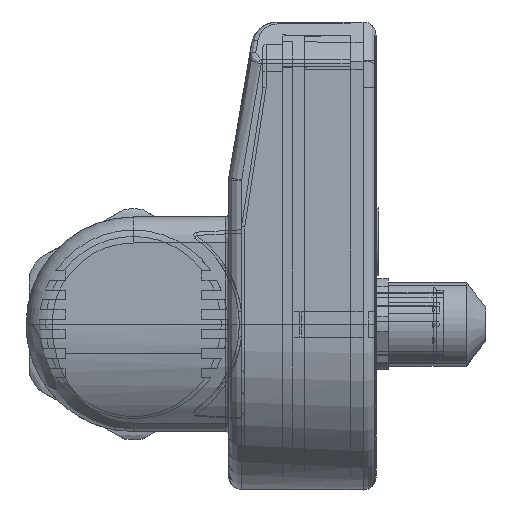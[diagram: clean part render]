
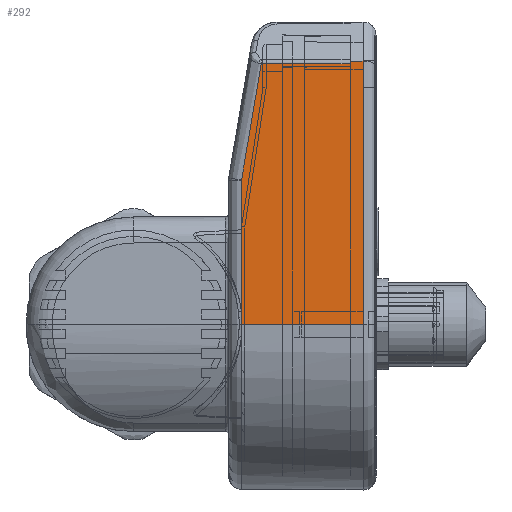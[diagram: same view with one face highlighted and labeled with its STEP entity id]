
A CAD part, front view. The second image highlights one B-rep face of the part: STEP entity #292.
In plain terms, the highlighted planar face has unit normal (0, -1, 0).
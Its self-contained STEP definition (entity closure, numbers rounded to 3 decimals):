
#73=CARTESIAN_POINT('',(35.347,-108.519,0.));
#74=VERTEX_POINT('',#73);
#84=CARTESIAN_POINT('',(33.347,-108.519,0.));
#85=VERTEX_POINT('',#84);
#86=CARTESIAN_POINT('',(35.347,-108.519,0.));
#87=DIRECTION('',(-1.0,0.0,0.0));
#88=VECTOR('',#87,2.0);
#89=LINE('',#86,#88);
#90=EDGE_CURVE('',#74,#85,#89,.T.);
#92=CARTESIAN_POINT('',(16.647,-108.519,0.));
#93=VERTEX_POINT('',#92);
#94=CARTESIAN_POINT('',(16.647,-108.519,0.));
#95=DIRECTION('',(1.0,0.0,0.0));
#96=VECTOR('',#95,16.7);
#97=LINE('',#94,#96);
#98=EDGE_CURVE('',#93,#85,#97,.T.);
#237=CARTESIAN_POINT('',(37.347,-108.519,46.5));
#238=DIRECTION('',(0.0,-1.0,0.0));
#239=DIRECTION('',(-1.0,0.0,0.0));
#240=AXIS2_PLACEMENT_3D('',#237,#238,#239);
#241=PLANE('',#240);
#242=CARTESIAN_POINT('',(35.347,-108.519,40.5));
#243=VERTEX_POINT('',#242);
#244=CARTESIAN_POINT('',(35.347,-108.519,40.5));
#245=DIRECTION('',(0.0,0.0,-1.0));
#246=VECTOR('',#245,40.5);
#247=LINE('',#244,#246);
#248=EDGE_CURVE('',#243,#74,#247,.T.);
#249=ORIENTED_EDGE('',*,*,#248,.F.);
#250=CARTESIAN_POINT('',(33.347,-108.519,40.5));
#251=VERTEX_POINT('',#250);
#252=CARTESIAN_POINT('',(33.347,-108.519,40.5));
#253=DIRECTION('',(1.0,0.0,0.0));
#254=VECTOR('',#253,2.0);
#255=LINE('',#252,#254);
#256=EDGE_CURVE('',#251,#243,#255,.T.);
#257=ORIENTED_EDGE('',*,*,#256,.F.);
#258=CARTESIAN_POINT('',(33.347,-108.519,40.086));
#259=VERTEX_POINT('',#258);
#260=CARTESIAN_POINT('',(33.347,-108.519,40.5));
#261=DIRECTION('',(0.0,0.0,-1.0));
#262=VECTOR('',#261,0.414);
#263=LINE('',#260,#262);
#264=EDGE_CURVE('',#251,#259,#263,.T.);
#265=ORIENTED_EDGE('',*,*,#264,.T.);
#266=CARTESIAN_POINT('',(19.687,-108.519,40.086));
#267=VERTEX_POINT('',#266);
#268=CARTESIAN_POINT('',(33.347,-108.519,40.086));
#269=DIRECTION('',(-1.0,0.0,0.0));
#270=VECTOR('',#269,13.661);
#271=LINE('',#268,#270);
#272=EDGE_CURVE('',#259,#267,#271,.T.);
#273=ORIENTED_EDGE('',*,*,#272,.T.);
#274=CARTESIAN_POINT('',(16.647,-108.519,22.187));
#275=VERTEX_POINT('',#274);
#276=CARTESIAN_POINT('',(19.687,-108.519,40.086));
#277=DIRECTION('',(-0.167,0.0,-0.986));
#278=VECTOR('',#277,18.155);
#279=LINE('',#276,#278);
#280=EDGE_CURVE('',#267,#275,#279,.T.);
#281=ORIENTED_EDGE('',*,*,#280,.T.);
#282=CARTESIAN_POINT('',(16.647,-108.519,22.187));
#283=DIRECTION('',(0.0,0.0,-1.0));
#284=VECTOR('',#283,22.187);
#285=LINE('',#282,#284);
#286=EDGE_CURVE('',#275,#93,#285,.T.);
#287=ORIENTED_EDGE('',*,*,#286,.T.);
#288=ORIENTED_EDGE('',*,*,#98,.T.);
#289=ORIENTED_EDGE('',*,*,#90,.F.);
#290=EDGE_LOOP('',(#249,#257,#265,#273,#281,#287,#288,#289));
#291=FACE_OUTER_BOUND('',#290,.T.);
#292=ADVANCED_FACE('',(#291),#241,.T.);
